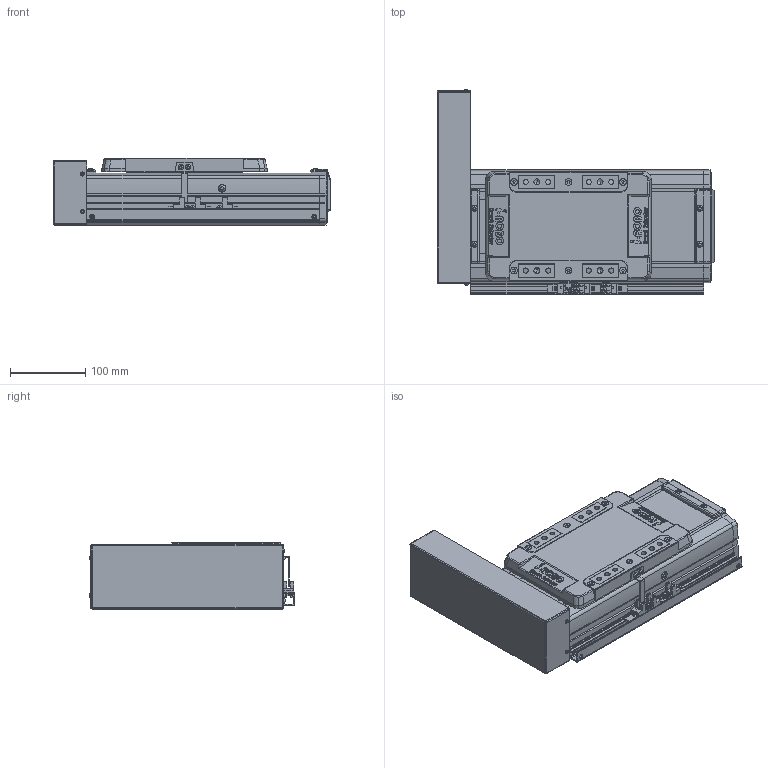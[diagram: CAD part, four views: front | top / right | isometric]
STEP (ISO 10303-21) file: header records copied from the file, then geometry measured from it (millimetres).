
FILE_DESCRIPTION(('STEP AP214'),'1');
FILE_NAME('Z:/Web/3D/SAN150/2013.04 (STP.)/SAN150ㅁㅁ-50PL+3SR.stp','2013-05-08T02:59:18',(' '),(' '),'Spatial InterOp 3D',' ',' ');
FILE_SCHEMA(('automotive_design'));
Length unit declared in the file: millimetre
Products named in the file (56): SLBL-SAN150; SLCV-SAN150; FHCS M4.0 x 8.0; BHCS M4.0 x 10.0; SFX-SAN150; RRCV-SAN150; FRBL-SAN150; Spacer; RN15; FRCV-SAN150; Screw 20; BASE-SAN150-000L ; SUS COVER; 스크루 : Round - M5.0 x 6.0; BHCS M3.0 x 6.0; P; M3.0 x 6.0; SRL-16x17-360L; SGD-SAN150; EE-SX674; SBK-SX674-352; 스크루 : Round - M3.0 x 6.0
Bounding box: 370 x 273.36 x 90 mm (x, y, z)
Volume: 3520098.7 mm3; surface area: 609926.5 mm2
Topology: 56 solids, 56 shells, 2472 faces, 6355 edges, 4092 vertices
Faces by surface type: plane 1356, cylinder 777, cone 230, sphere 76, bspline 21, torus 12
Entity records: 97312 total; most frequent: CARTESIAN_POINT 14969, DIRECTION 13412, ORIENTED_EDGE 12518, EDGE_CURVE 6259, AXIS2_PLACEMENT_3D 4710, VERTEX_POINT 4092, LINE 3992, VECTOR 3992
